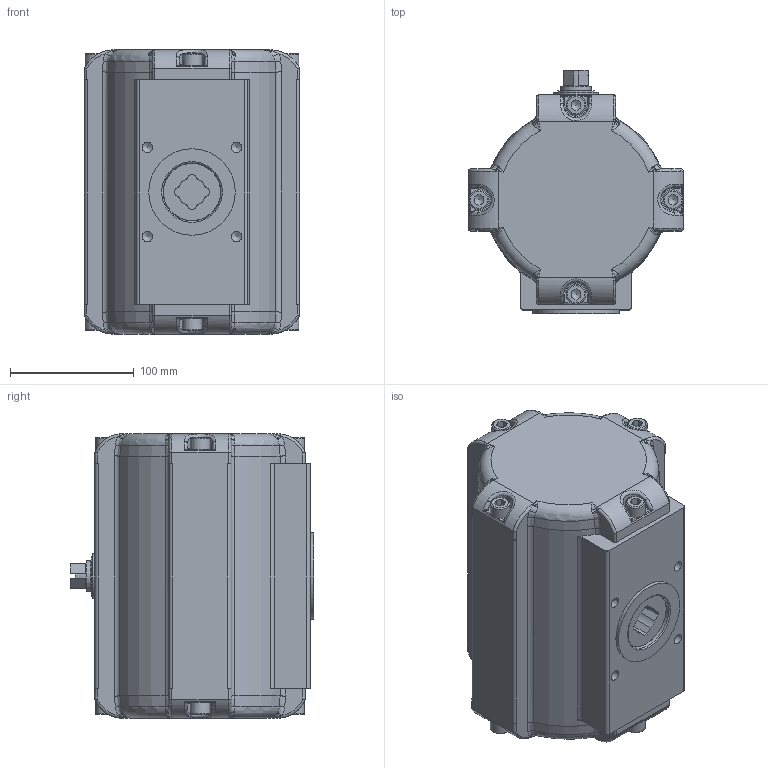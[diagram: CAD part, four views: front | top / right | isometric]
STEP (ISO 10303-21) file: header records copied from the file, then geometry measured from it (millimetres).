
FILE_DESCRIPTION(/* description */ (''),/* implementation_level */ '2;1');
FILE_NAME(/* name */ 'C:\Users\war\Desktop\BR03C_SAD_30.stp',/* time_stamp */ '2021-05-05T08:45:44+02:00',/* author */ ('war'),/* organization */ (''),/* preprocessor_version */ 'ST-DEVELOPER v18.1',/* originating_system */ 'Autodesk Inventor 2021',/* authorisation */ '');
FILE_SCHEMA (('AUTOMOTIVE_DESIGN { 1 0 10303 214 3 1 1 }'));
Products named in the file (1): ENG-088991_Shrinkwrap_1
Bounding box: 174 x 197 x 230 mm (x, y, z)
Volume: 2808957.8 mm3; surface area: 569783.5 mm2
Topology: 1 solids, 1 shells, 3026 faces, 7520 edges, 4335 vertices
Faces by surface type: cylinder 884, torus 687, plane 609, bspline 587, sphere 136, cone 123
Full cylindrical faces by diameter (mm): 2 x2, 4.134 x8, 4.917 x1, 5 x2, 8.376 x4, 11.445 x2, 16 x8, 20 x1, 20.8 x1, 21 x1, 23.5 x1, 24.8 x3, 25 x4, 25.1 x1, 25.3 x8, 26 x2, 28 x4, 30 x14, 30.4 x4, 32 x1, 35 x1, 36 x1, 41.9 x1, 43 x1, 46.8 x3, 47 x1, 70 x1, 124.9 x2, 131 x1, 134.5 x4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
Entity records: 113290 total; most frequent: CARTESIAN_POINT 42748, ORIENTED_EDGE 14526, DIRECTION 13866, EDGE_CURVE 7263, AXIS2_PLACEMENT_3D 5949, VERTEX_POINT 4335, CIRCLE 3421, EDGE_LOOP 3152
